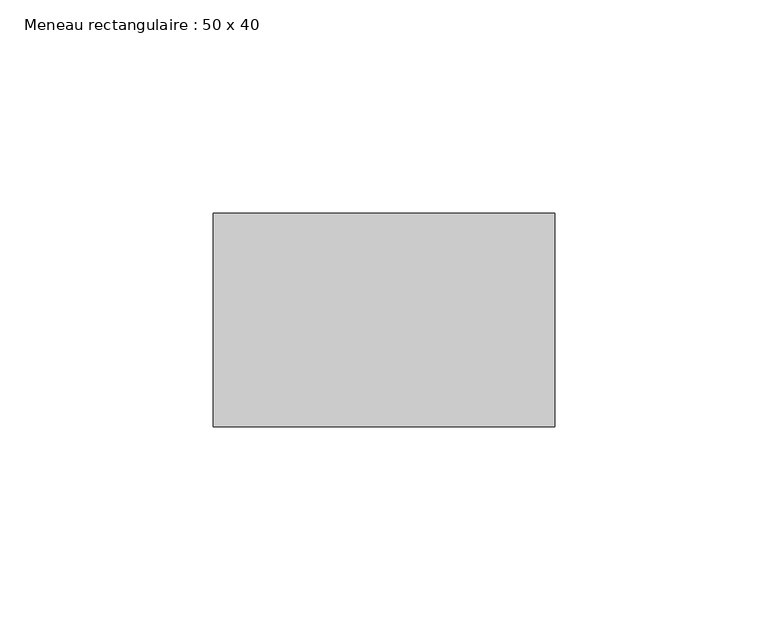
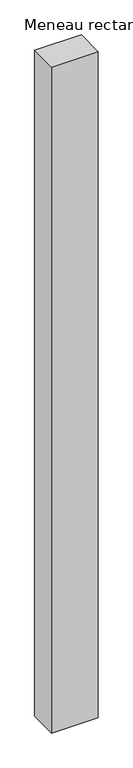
"""IFC4 building model written with IfcOpenShell, lengths in millimetres: member geometry, Meneau rectangulaire : 50 x 40."""

from ifc_helpers import new_model, si_unit, frame, origin, place, context, project, spatial, polyline, outline, extrude, source, transform, mapped, element, save


def meneau_rectangulaire_50_x_40_4859ab62(model_context):
    return source(origin(), model_context, "Body", "SweptSolid", [
        extrude(outline(polyline([(40.0, 0.0), (40.0, -50.0), (-40.0, -50.0), (-40.0, 0.0), (40.0, 0.0)])), frame((0.0, 0.0, -1207.7319859), z_axis=(0.0, 0.0, 1.0), x_axis=(1.0, 0.0, 0.0)), (0.0, 0.0, 1.0), 1207.7319859),
    ])


if __name__ == "__main__":
    model = new_model("IFC4")
    model_context = context("Model", 3, world=origin())
    ifc_project = project(units=[si_unit("LENGTHUNIT", "METRE", prefix="MILLI")], contexts=[model_context])
    site = spatial("IfcSite", under=ifc_project)
    building = spatial("IfcBuilding", under=site)
    placement = place(None, origin())
    meneau_rectangulaire_50_x_40_shape = meneau_rectangulaire_50_x_40_4859ab62(model_context)
    element("IfcMember", 1, ObjectType="Meneau rectangulaire : 50 x 40", at=placement, inside=building, context=model_context, shape_type="MappedRepresentation", body=[
        mapped(meneau_rectangulaire_50_x_40_shape, transform((0.0, 0.0, 0.0), x_axis=(1.0, 0.0, 0.0), y_axis=(0.0, 1.0, 0.0), z_axis=(0.0, 0.0, 1.0))),
    ])
    save(model, "model.ifc")
